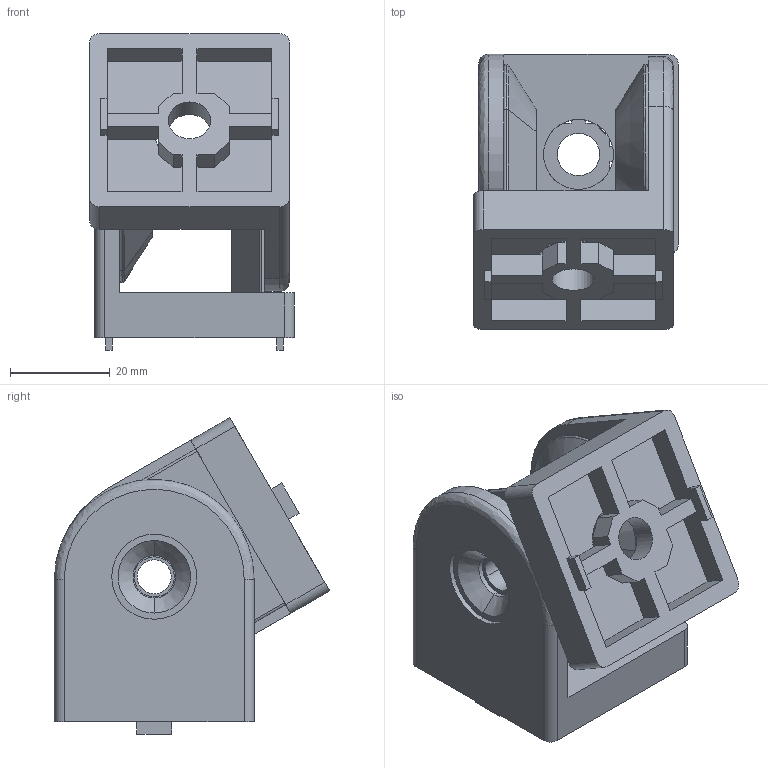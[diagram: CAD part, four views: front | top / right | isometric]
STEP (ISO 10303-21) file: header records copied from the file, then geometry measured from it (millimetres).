
FILE_DESCRIPTION (( 'STEP AP203' ), '1' );
FILE_NAME ('DAJ-08.STEP', '2023-01-12T05:30:17', ( '' ), ( '' ), 'SwSTEP 2.0', 'SolidWorks 2017', '' );
FILE_SCHEMA (( 'CONFIG_CONTROL_DESIGN' ));
Length unit declared in the file: millimetre
Products named in the file (2): DAJ-M8; DAJ-08
Assembly tree (2 placements, depth 2):
  DAJ-08
    DAJ-M8  x2
Bounding box: 41 x 55.11 x 63.32 mm (x, y, z)
Surface area: 23572.8 mm2 (no closed solid volume)
Topology: 0 solids, 4 shells, 164 faces, 470 edges, 300 vertices
Faces by surface type: plane 106, cylinder 46, cone 6, bspline 6
Entity records: 2961 total; most frequent: CARTESIAN_POINT 535, ORIENTED_EDGE 466, DIRECTION 461, EDGE_CURVE 235, LINE 173, VECTOR 173, VERTEX_POINT 150, AXIS2_PLACEMENT_3D 144
